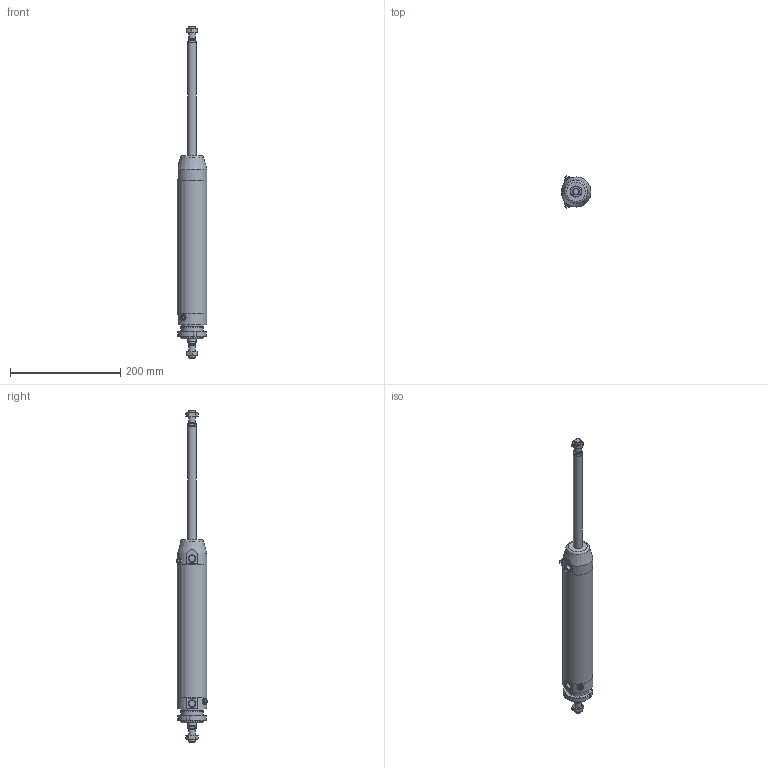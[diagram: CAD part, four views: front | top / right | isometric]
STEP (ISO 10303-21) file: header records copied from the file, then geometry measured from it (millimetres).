
FILE_DESCRIPTION(/* description */ (''),/* implementation_level */ '2;1');
FILE_NAME(/* name */ 'I:\Area Tecnica\Documenti\A-Manieri\_Inventor\12X\12X#T_###_####_#_#\12XDT_050_0200_#_#.stp',/* time_stamp */ '2015-05-13T09:09:10+02:00',/* author */ ('maniean1'),/* organization */ ('Pneumax S.p.A.'),/* preprocessor_version */ 'ST-DEVELOPER v15.2',/* originating_system */ 'Autodesk Inventor 2014',/* authorisation */ '');
FILE_SCHEMA (('AUTOMOTIVE_DESIGN { 1 0 10303 214 3 1 1 }'));
Length unit declared in the file: millimetre
Products named in the file (7): C1250_619-0200; 12X50_606; SP12X50_0200; 12X_50_11; 12X50_614; G12X_050_05; 12XDT_050_0200_#_#
Bounding box: 54 x 57.75 x 602 mm (x, y, z)
Volume: 430237.9 mm3; surface area: 150169.6 mm2
Topology: 7 solids, 7 shells, 125 faces, 280 edges, 180 vertices
Faces by surface type: plane 66, cylinder 30, cone 26, torus 3
Full cylindrical faces by diameter (mm): 5 x2, 10.2 x2, 11 x2, 11.4 x2, 12 x4, 14 x2, 15.6 x2, 16 x2, 38.2 x1, 40 x3, 50 x2, 54 x3
Entity records: 3058 total; most frequent: CARTESIAN_POINT 614, DIRECTION 513, ORIENTED_EDGE 402, AXIS2_PLACEMENT_3D 219, EDGE_CURVE 201, EDGE_LOOP 178, VERTEX_POINT 153, ADVANCED_FACE 114
